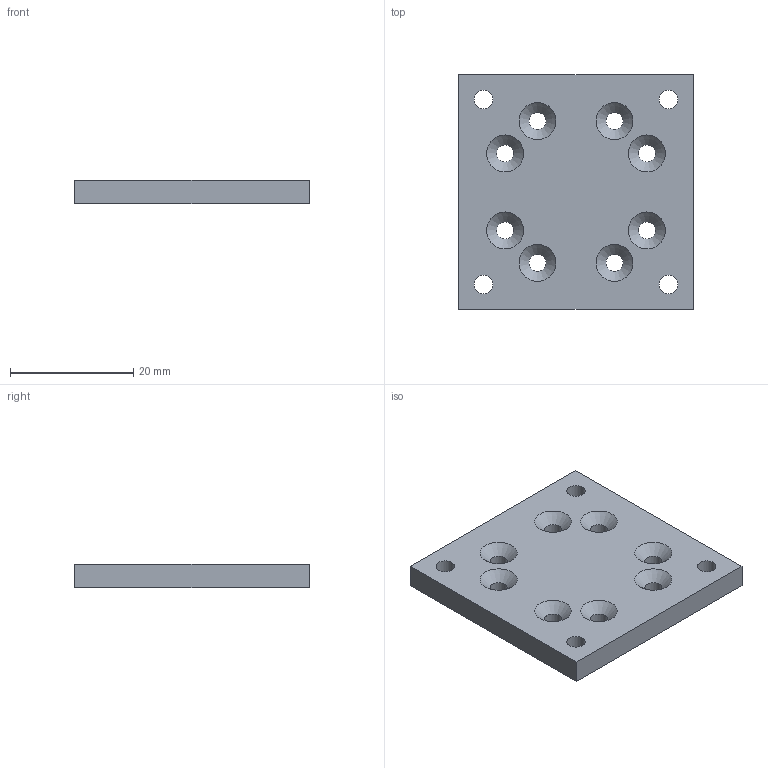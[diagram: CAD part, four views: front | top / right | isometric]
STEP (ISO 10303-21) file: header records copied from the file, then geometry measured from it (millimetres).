
FILE_DESCRIPTION(/* description */ ('','CAx-IF Rec.Pracs.---Representation and Presentation of Product Manufacturing Information (PMI)---3.8---2014-02-18'),/* implementation_level */ '2;1');
FILE_NAME(/* name */ 'D:\Inventor\1p2p\for vendors\DM mount\Optima order\smar2goniometr.stp',/* time_stamp */ '2018-05-07T13:27:09-07:00',/* author */ ('Radek'),/* organization */ (''),/* preprocessor_version */ 'ST-DEVELOPER v16.5',/* originating_system */ 'Autodesk Inventor 2017',/* authorisation */ '');
FILE_SCHEMA (('AP242_MANAGED_MODEL_BASED_3D_ENGINEERING_MIM_LF { 1 0 10303 442 1 1 4 }'));
Length unit declared in the file: millimetre
Products named in the file (1): smar2goniometr
Bounding box: 38.1 x 38.1 x 3.85 mm (x, y, z)
Volume: 5165.8 mm3; surface area: 3711.7 mm2
Topology: 1 solids, 1 shells, 26 faces, 72 edges, 48 vertices
Faces by surface type: cylinder 12, cone 8, plane 6
Full cylindrical faces by diameter (mm): 2.8 x8, 3 x4
Entity records: 754 total; most frequent: DIRECTION 130, CARTESIAN_POINT 111, ORIENTED_EDGE 88, EDGE_LOOP 70, AXIS2_PLACEMENT_3D 59, FACE_BOUND 44, EDGE_CURVE 44, VERTEX_POINT 40
